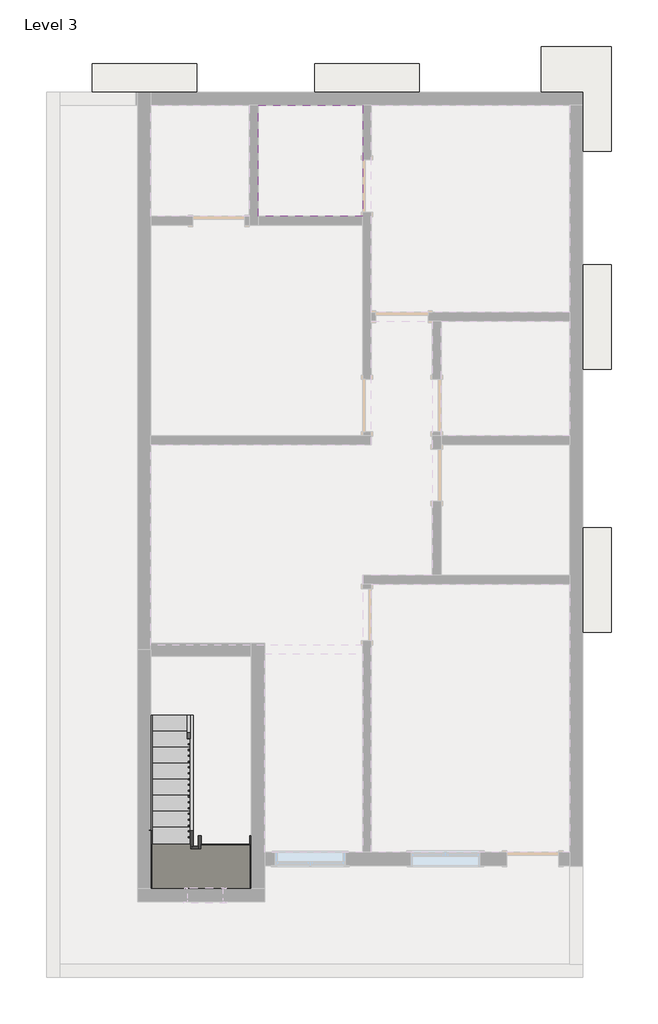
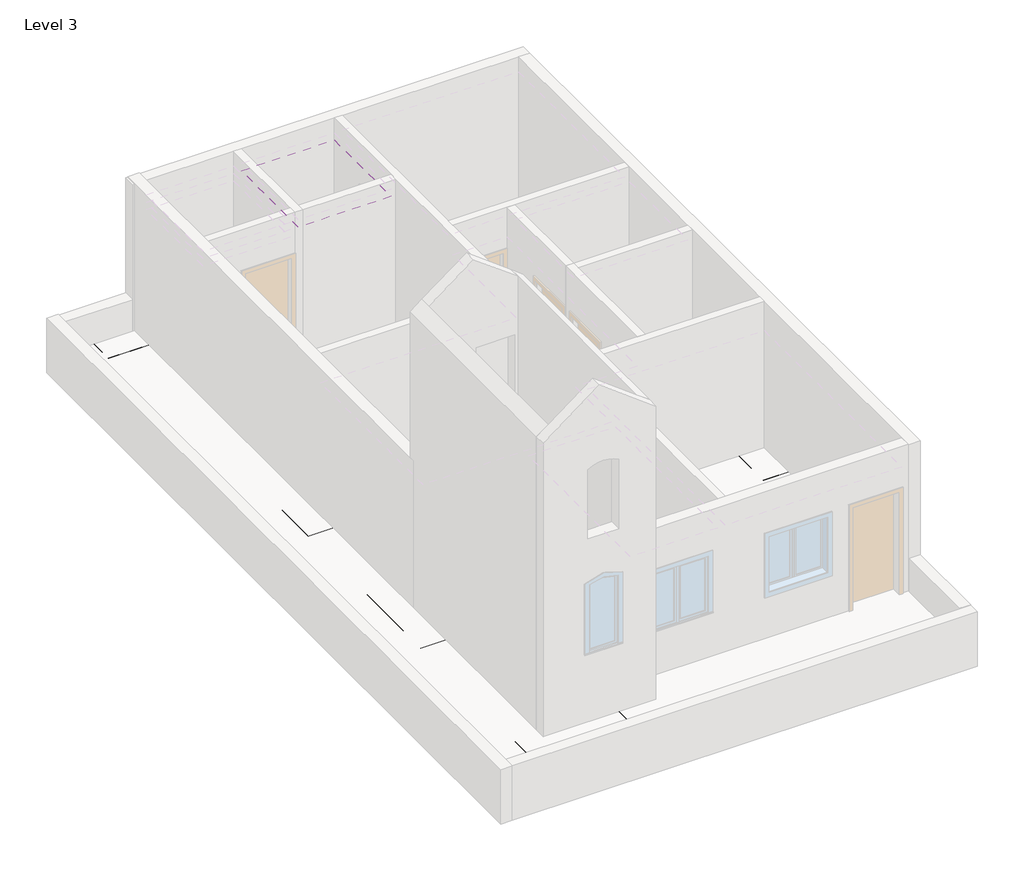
# One storey, part 2 of 2: 15 slabs, 8 members, 4 columns, 2 stair flights, 1 beam, 1 covering, 1 railing.
"""IFC4 building model written with IfcOpenShell, lengths in millimetres."""

from ifc_helpers import new_model, si_unit, frame, origin, origin_with_axes, place, context, project, spatial, polyline, outline, extrude, faceted_brep, transform, mapped, element, save
from components import footing_rectangular_1800_x1200_x_450_5ba74754, non_monolithic_landing_9032badd, stair_flight_d539902c, stair_flight_b4abb4c3

model = new_model("IFC4")

# Units and contexts
model_context = context("Model", 3, world=origin())
ifc_project = project(units=[si_unit("LENGTHUNIT", "METRE", prefix="MILLI")], contexts=[model_context])

# Site, building, storey
site = spatial("IfcSite", under=ifc_project)
building = spatial("IfcBuilding", under=site)
storey = spatial("IfcBuildingStorey", under=building, Name="Level 3", Elevation=0.0)

# Beam
placement = place(None, origin())
element("IfcBeam", 1, ObjectType="Concrete-Rectangular Beam : 203 x 304", at=placement, inside=storey, context=model_context, shape_type="SweptSolid", body=[
    extrude(outline(polyline([(-980.1915209, -6095.8926766), (-980.1915209, -6299.0926766), (-2758.1915209, -6299.0926766), (-2758.1915209, -6095.8926766), (-980.1915209, -6095.8926766)])), frame((0.0, 0.0, 722.8687095), z_axis=(0.0, 0.0, 1.0), x_axis=(1.0, 0.0, 0.0)), (0.0, 0.0, 1.0), 304.8),
])

# Columns
element("IfcColumn", 2, ObjectType="Concrete-Square-Column : 203 x 203", at=placement, inside=storey, context=model_context, shape_type="Brep", body=[
    faceted_brep([(-776.9915209, -1803.2926766, 0.0), (-776.9915209, -2006.4926766, 0.0), (-980.1915209, -2006.4926766, 0.0), (-980.1915209, -1803.2926766, 0.0), (-776.9915209, -2006.4926766, 2794.0), (-776.9915209, -1803.2926766, 2794.0), (-980.1915209, -1803.2926766, 2794.0), (-980.1915209, -2006.4926766, 2794.0), (-776.9915209, -1803.2926766, 2743.2), (-776.9915209, -2006.4926766, 2743.2), (-980.1915209, -2006.4926766, 2743.2), (-980.1915209, -1803.2926766, 2743.2)], [[[0, 1, 2, 3]], [[4, 5, 6, 7]], [[1, 0, 8, 5, 4, 9]], [[2, 1, 9, 4, 7, 10]], [[3, 2, 10, 7, 6, 11]], [[0, 3, 11, 6, 5, 8]]]),
    faceted_brep([(-776.9915209, -1803.2926766, 5791.2), (-776.9915209, -2006.4926766, 5791.2), (-776.9915209, -2006.4926766, 3048.0), (-776.9915209, -1803.2926766, 3048.0), (-980.1915209, -2006.4926766, 5791.2), (-980.1915209, -2006.4926766, 3048.0), (-980.1915209, -1803.2926766, 5791.2), (-980.1915209, -1803.2926766, 3048.0)], [[[0, 1, 2, 3]], [[1, 4, 5, 2]], [[4, 6, 7, 5]], [[6, 0, 3, 7]], [[1, 0, 6, 4]], [[3, 2, 5, 7]]]),
])
element("IfcColumn", 3, ObjectType="Concrete-Square-Column : 203 x 203", at=placement, inside=storey, context=model_context, shape_type="Brep", body=[
    faceted_brep([(-2758.1915209, -1803.2926766, 0.0), (-2758.1915209, -2006.4926766, 0.0), (-2961.3915209, -2006.4926766, 0.0), (-2961.3915209, -1803.2926766, 0.0), (-2758.1915209, -2006.4926766, 2794.0), (-2758.1915209, -1803.2926766, 2794.0), (-2961.3915209, -1803.2926766, 2794.0), (-2961.3915209, -2006.4926766, 2794.0), (-2758.1915209, -1803.2926766, 2743.2), (-2758.1915209, -2006.4926766, 2743.2), (-2961.3915209, -1803.2926766, 2743.2)], [[[0, 1, 2, 3]], [[4, 5, 6, 7]], [[1, 0, 8, 5, 4, 9]], [[2, 1, 9, 4, 7]], [[3, 2, 7, 6, 10]], [[0, 3, 10, 6, 5, 8]]]),
    faceted_brep([(-2758.1915209, -1803.2926766, 5791.2), (-2758.1915209, -2006.4926766, 5791.2), (-2758.1915209, -2006.4926766, 3048.0), (-2758.1915209, -1803.2926766, 3048.0), (-2961.3915209, -2006.4926766, 5791.2), (-2961.3915209, -2006.4926766, 3048.0), (-2961.3915209, -1803.2926766, 5791.2), (-2961.3915209, -1803.2926766, 3048.0)], [[[0, 1, 2, 3]], [[1, 4, 5, 2]], [[4, 6, 7, 5]], [[6, 0, 3, 7]], [[1, 0, 6, 4]], [[3, 2, 5, 7]]]),
])
element("IfcColumn", 4, ObjectType="Concrete-Square-Column : 203 x 203", at=placement, inside=storey, context=model_context, shape_type="SweptSolid", body=[
    extrude(outline(polyline([(-776.9915209, -6095.8926766), (-776.9915209, -6299.0926766), (-980.1915209, -6299.0926766), (-980.1915209, -6095.8926766), (-776.9915209, -6095.8926766)])), origin_with_axes(), (0.0, 0.0, 1.0), 5791.2),
])
element("IfcColumn", 5, ObjectType="Concrete-Square-Column : 203 x 203", at=placement, inside=storey, context=model_context, shape_type="SweptSolid", body=[
    extrude(outline(polyline([(-2758.1915209, -6095.8926766), (-2758.1915209, -6299.0926766), (-2961.3915209, -6299.0926766), (-2961.3915209, -6095.8926766), (-2758.1915209, -6095.8926766)])), origin_with_axes(), (0.0, 0.0, 1.0), 5791.2),
])

# Covering
element("IfcCovering", 6, ObjectType="GWB on Mtl. Stud", at=placement, inside=storey, context=model_context, shape_type="SweptSolid", body=[
    extrude(outline(polyline([(-877.0040209, 5665.8948234), (-877.0040209, 7607.4073234), (948.6209791, 7607.4073234), (948.6209791, 5665.8948234), (-877.0040209, 5665.8948234)])), frame((0.0, 0.0, 2590.8), z_axis=(0.0, 0.0, 1.0), x_axis=(1.0, 0.0, 0.0)), (0.0, 0.0, 1.0), 107.95),
])

# Members
element("IfcMember", 7, ObjectType="Stringer - 2\" Width", at=placement, inside=storey, context=model_context, shape_type="SweptSolid", body=[
    extrude(outline(polyline([(-3047.8926766, 202.7933564), (-3047.8926766, 0.0), (-3325.0270456, 0.0), (-5378.6170456, 1018.3090909), (-5307.1960746, 1323.1090909), (-3047.8926766, 202.7933564)])), frame((-2064.400324, 0.0, 0.0), z_axis=(1.0, 0.0, 0.0), x_axis=(0.0, 1.0, 0.0)), (0.0, 0.0, 1.0), 50.8),
])
element("IfcMember", 8, ObjectType="Stringer - 2\" Width", at=placement, inside=storey, context=model_context, shape_type="SweptSolid", body=[
    extrude(outline(polyline([(-3047.8926766, 202.7933564), (-3047.8926766, 0.0), (-3325.0270456, 0.0), (-5378.6170456, 1018.3090909), (-5307.1960746, 1323.1090909), (-3047.8926766, 202.7933564)])), frame((-2776.4477709, 0.0, 0.0), z_axis=(1.0, 0.0, 0.0), x_axis=(0.0, 1.0, 0.0)), (0.0, 0.0, 1.0), 50.8),
])
element("IfcMember", 9, ObjectType="Stringer - 2\" Width", at=placement, inside=storey, context=model_context, shape_type="SweptSolid", body=[
    extrude(outline(polyline([(-5391.5562734, 1081.7672372), (-5391.5562734, 1421.9825947), (-1982.8545706, 3112.2479018), (-1982.8545706, 2772.0325443), (-5391.5562734, 1081.7672372)])), frame((-1922.3459224, 0.0, 0.0), z_axis=(1.0, 0.0, 0.0), x_axis=(0.0, 1.0, 0.0)), (0.0, 0.0, 1.0), 50.8),
])
element("IfcMember", 10, ObjectType="Stringer - 2\" Width", at=placement, inside=storey, context=model_context, shape_type="SweptSolid", body=[
    extrude(outline(polyline([(-5519.5302017, 1018.3090909), (-5590.9511727, 1323.1090909), (-1982.8545706, 3112.2479018), (-1982.8545706, 2772.0325443), (-5519.5302017, 1018.3090909)])), frame((-1025.7909807, 0.0, 0.0), z_axis=(1.0, 0.0, 0.0), x_axis=(0.0, 1.0, 0.0)), (0.0, 0.0, 1.0), 50.8),
])
element("IfcMember", 11, ObjectType="Stringer - 2\" Width", at=placement, inside=storey, context=model_context, shape_type="SweptSolid", body=[
    extrude(outline(polyline([(-1922.3459224, -5340.7562734), (-1922.3459224, -5391.5562734), (-2064.400324, -5391.5562734), (-2013.600324, -5340.7562734), (-1922.3459224, -5340.7562734)])), frame((0.0, 0.0, 1018.3090909), z_axis=(0.0, 0.0, 1.0), x_axis=(1.0, 0.0, 0.0)), (0.0, 0.0, 1.0), 304.8),
])
element("IfcMember", 12, ObjectType="Stringer - 2\" Width", at=placement, inside=storey, context=model_context, shape_type="Brep", body=[
    faceted_brep([(-2725.6477709, -5307.1960746, 1323.1090909), (-2776.4477709, -5307.1960746, 1323.1090909), (-2776.4477709, -6248.2926766, 1323.1090909), (-2725.6477709, -6197.4926766, 1323.1090909), (-2725.6477709, -5378.6170456, 1018.3090909), (-2725.6477709, -6197.4926766, 1018.3090909), (-2776.4477709, -5378.6170456, 1018.3090909), (-2776.4477709, -6248.2926766, 1018.3090909)], [[[0, 1, 2, 3]], [[4, 0, 3, 5]], [[6, 4, 5, 7]], [[1, 6, 7, 2]], [[1, 0, 4, 6]], [[2, 7, 5, 3]]]),
])
element("IfcMember", 13, ObjectType="Stringer - 2\" Width", at=placement, inside=storey, context=model_context, shape_type="SweptSolid", body=[
    extrude(outline(polyline([(-2776.4477709, -6248.2926766), (-2725.6477709, -6197.4926766), (-1025.7909807, -6197.4926766), (-974.9909807, -6248.2926766), (-2776.4477709, -6248.2926766)])), frame((0.0, 0.0, 1018.3090909), z_axis=(0.0, 0.0, 1.0), x_axis=(1.0, 0.0, 0.0)), (0.0, 0.0, 1.0), 304.8),
])
element("IfcMember", 14, ObjectType="Stringer - 2\" Width", at=placement, inside=storey, context=model_context, shape_type="Brep", body=[
    faceted_brep([(-1025.7909807, -6197.4926766, 1323.1090909), (-974.9909807, -6248.2926766, 1323.1090909), (-974.9909807, -5590.9511727, 1323.1090909), (-1025.7909807, -5590.9511727, 1323.1090909), (-1025.7909807, -6197.4926766, 1018.3090909), (-1025.7909807, -5519.5302017, 1018.3090909), (-974.9909807, -6248.2926766, 1018.3090909), (-974.9909807, -5519.5302017, 1018.3090909)], [[[0, 1, 2, 3]], [[4, 0, 3, 5]], [[6, 4, 5, 7]], [[1, 6, 7, 2]], [[1, 0, 4, 6]], [[2, 7, 5, 3]]]),
])

# Railing
element("IfcRailing", 15, ObjectType="Handrail - Rectangular", at=placement, inside=storey, context=model_context, shape_type="SolidModel", body=[
    faceted_brep([(-2064.400324, -3047.8926766, 1052.9454545), (-2064.400324, -3047.8926766, 996.242895), (-2115.200324, -3047.8926766, 996.242895), (-2115.200324, -3047.8926766, 1052.9454545), (-2064.400324, -5283.0926766, 2161.3090909), (-2064.400324, -5294.9961718, 2110.5090909), (-2115.200324, -5294.9961718, 2110.5090909), (-2115.200324, -5283.0926766, 2161.3090909), (-2064.400324, -5391.5562734, 2161.3090909), (-2064.400324, -5391.5562734, 2110.5090909), (-2115.200324, -5442.3562734, 2110.5090909), (-2115.200324, -5442.3562734, 2161.3090909), (-1947.7459224, -5391.5562734, 2161.3090909), (-1896.9459224, -5391.5562734, 2110.5090909), (-1896.9459224, -5442.3562734, 2110.5090909), (-1947.7459224, -5442.3562734, 2161.3090909), (-1947.7459224, -5391.5562734, 2309.9198168), (-1896.9459224, -5391.5562734, 2259.1198168), (-1896.9459224, -5442.3562734, 2259.1198168), (-1947.7459224, -5442.3562734, 2309.9198168), (-1871.5459224, -5391.5562734, 2309.9198168), (-1871.5459224, -5391.5562734, 2259.1198168), (-1820.7459224, -5442.3562734, 2259.1198168), (-1820.7459224, -5442.3562734, 2309.9198168), (-1871.5459224, -5315.3562734, 2309.9198168), (-1871.5459224, -5303.4527782, 2259.1198168), (-1820.7459224, -5303.4527782, 2259.1198168), (-1820.7459224, -5315.3562734, 2309.9198168), (-1871.5459224, -1982.8545706, 3962.4), (-1820.7459224, -1982.8545706, 3962.4), (-1820.7459224, -1982.8545706, 3905.6974404), (-1871.5459224, -1982.8545706, 3905.6974404)], [[[0, 1, 2, 3]], [[1, 0, 4, 5]], [[2, 1, 5, 6]], [[3, 2, 6, 7]], [[0, 3, 7, 4]], [[5, 4, 8, 9]], [[6, 5, 9, 10]], [[7, 6, 10, 11]], [[4, 7, 11, 8]], [[9, 8, 12, 13]], [[10, 9, 13, 14]], [[11, 10, 14, 15]], [[8, 11, 15, 12]], [[13, 12, 16, 17]], [[14, 13, 17, 18]], [[15, 14, 18, 19]], [[12, 15, 19, 16]], [[17, 16, 20, 21]], [[18, 17, 21, 22]], [[19, 18, 22, 23]], [[16, 19, 23, 20]], [[21, 20, 24, 25]], [[22, 21, 25, 26]], [[23, 22, 26, 27]], [[20, 23, 27, 24]], [[28, 29, 30, 31]], [[25, 24, 28, 31]], [[26, 25, 31, 30]], [[27, 26, 30, 29]], [[24, 27, 29, 28]]]),
    extrude(outline(polyline([(-2054.6312734, 3870.105687), (-2054.6312734, 2909.4545455), (-2073.6812734, 2909.4545455), (-2073.6812734, 3860.659406), (-2054.6312734, 3870.105687)])), frame((-1855.6709224, 0.0, 0.0), z_axis=(1.0, 0.0, 0.0), x_axis=(0.0, 1.0, 0.0)), (0.0, 0.0, 1.0), 19.05),
    extrude(outline(polyline([(-2156.2312734, 3819.7255217), (-2156.2312734, 2909.4545455), (-2175.2812734, 2909.4545455), (-2175.2812734, 3810.2792407), (-2156.2312734, 3819.7255217)])), frame((-1855.6709224, 0.0, 0.0), z_axis=(1.0, 0.0, 0.0), x_axis=(0.0, 1.0, 0.0)), (0.0, 0.0, 1.0), 19.05),
    extrude(outline(polyline([(-2257.8312734, 3769.3453564), (-2257.8312734, 2770.9090909), (-2276.8812734, 2770.9090909), (-2276.8812734, 3759.8990754), (-2257.8312734, 3769.3453564)])), frame((-1855.6709224, 0.0, 0.0), z_axis=(1.0, 0.0, 0.0), x_axis=(0.0, 1.0, 0.0)), (0.0, 0.0, 1.0), 19.05),
    extrude(outline(polyline([(-2359.4312734, 3718.9651911), (-2359.4312734, 2770.9090909), (-2378.4812734, 2770.9090909), (-2378.4812734, 3709.5189101), (-2359.4312734, 3718.9651911)])), frame((-1855.6709224, 0.0, 0.0), z_axis=(1.0, 0.0, 0.0), x_axis=(0.0, 1.0, 0.0)), (0.0, 0.0, 1.0), 19.05),
    extrude(outline(polyline([(-2461.0312734, 3668.5850258), (-2461.0312734, 2770.9090909), (-2480.0812734, 2770.9090909), (-2480.0812734, 3659.1387449), (-2461.0312734, 3668.5850258)])), frame((-1855.6709224, 0.0, 0.0), z_axis=(1.0, 0.0, 0.0), x_axis=(0.0, 1.0, 0.0)), (0.0, 0.0, 1.0), 19.05),
    extrude(outline(polyline([(-2562.6312734, 3618.2048606), (-2562.6312734, 2632.3636364), (-2581.6812734, 2632.3636364), (-2581.6812734, 3608.7585796), (-2562.6312734, 3618.2048606)])), frame((-1855.6709224, 0.0, 0.0), z_axis=(1.0, 0.0, 0.0), x_axis=(0.0, 1.0, 0.0)), (0.0, 0.0, 1.0), 19.05),
    extrude(outline(polyline([(-2664.2312734, 3567.8246953), (-2664.2312734, 2632.3636364), (-2683.2812734, 2632.3636364), (-2683.2812734, 3558.3784143), (-2664.2312734, 3567.8246953)])), frame((-1855.6709224, 0.0, 0.0), z_axis=(1.0, 0.0, 0.0), x_axis=(0.0, 1.0, 0.0)), (0.0, 0.0, 1.0), 19.05),
    extrude(outline(polyline([(-2765.8312734, 3517.44453), (-2765.8312734, 2632.3636364), (-2784.8812734, 2632.3636364), (-2784.8812734, 3507.998249), (-2765.8312734, 3517.44453)])), frame((-1855.6709224, 0.0, 0.0), z_axis=(1.0, 0.0, 0.0), x_axis=(0.0, 1.0, 0.0)), (0.0, 0.0, 1.0), 19.05),
    extrude(outline(polyline([(-2867.4312734, 3467.0643647), (-2867.4312734, 2493.8181818), (-2886.4812734, 2493.8181818), (-2886.4812734, 3457.6180837), (-2867.4312734, 3467.0643647)])), frame((-1855.6709224, 0.0, 0.0), z_axis=(1.0, 0.0, 0.0), x_axis=(0.0, 1.0, 0.0)), (0.0, 0.0, 1.0), 19.05),
    extrude(outline(polyline([(-2969.0312734, 3416.6841994), (-2969.0312734, 2493.8181818), (-2988.0812734, 2493.8181818), (-2988.0812734, 3407.2379184), (-2969.0312734, 3416.6841994)])), frame((-1855.6709224, 0.0, 0.0), z_axis=(1.0, 0.0, 0.0), x_axis=(0.0, 1.0, 0.0)), (0.0, 0.0, 1.0), 19.05),
    extrude(outline(polyline([(-3070.6312734, 3366.3040341), (-3070.6312734, 2493.8181818), (-3089.6812734, 2493.8181818), (-3089.6812734, 3356.8577531), (-3070.6312734, 3366.3040341)])), frame((-1855.6709224, 0.0, 0.0), z_axis=(1.0, 0.0, 0.0), x_axis=(0.0, 1.0, 0.0)), (0.0, 0.0, 1.0), 19.05),
    extrude(outline(polyline([(-3172.2312734, 3315.9238688), (-3172.2312734, 2355.2727273), (-3191.2812734, 2355.2727273), (-3191.2812734, 3306.4775878), (-3172.2312734, 3315.9238688)])), frame((-1855.6709224, 0.0, 0.0), z_axis=(1.0, 0.0, 0.0), x_axis=(0.0, 1.0, 0.0)), (0.0, 0.0, 1.0), 19.05),
    extrude(outline(polyline([(-3273.8312734, 3265.5437035), (-3273.8312734, 2355.2727273), (-3292.8812734, 2355.2727273), (-3292.8812734, 3256.0974225), (-3273.8312734, 3265.5437035)])), frame((-1855.6709224, 0.0, 0.0), z_axis=(1.0, 0.0, 0.0), x_axis=(0.0, 1.0, 0.0)), (0.0, 0.0, 1.0), 19.05),
    extrude(outline(polyline([(-3375.4312734, 3215.1635382), (-3375.4312734, 2216.7272727), (-3394.4812734, 2216.7272727), (-3394.4812734, 3205.7172573), (-3375.4312734, 3215.1635382)])), frame((-1855.6709224, 0.0, 0.0), z_axis=(1.0, 0.0, 0.0), x_axis=(0.0, 1.0, 0.0)), (0.0, 0.0, 1.0), 19.05),
    extrude(outline(polyline([(-3477.0312734, 3164.783373), (-3477.0312734, 2216.7272727), (-3496.0812734, 2216.7272727), (-3496.0812734, 3155.337092), (-3477.0312734, 3164.783373)])), frame((-1855.6709224, 0.0, 0.0), z_axis=(1.0, 0.0, 0.0), x_axis=(0.0, 1.0, 0.0)), (0.0, 0.0, 1.0), 19.05),
    extrude(outline(polyline([(-3578.6312734, 3114.4032077), (-3578.6312734, 2216.7272727), (-3597.6812734, 2216.7272727), (-3597.6812734, 3104.9569267), (-3578.6312734, 3114.4032077)])), frame((-1855.6709224, 0.0, 0.0), z_axis=(1.0, 0.0, 0.0), x_axis=(0.0, 1.0, 0.0)), (0.0, 0.0, 1.0), 19.05),
    extrude(outline(polyline([(-3680.2312734, 3064.0230424), (-3680.2312734, 2078.1818182), (-3699.2812734, 2078.1818182), (-3699.2812734, 3054.5767614), (-3680.2312734, 3064.0230424)])), frame((-1855.6709224, 0.0, 0.0), z_axis=(1.0, 0.0, 0.0), x_axis=(0.0, 1.0, 0.0)), (0.0, 0.0, 1.0), 19.05),
    extrude(outline(polyline([(-3781.8312734, 3013.6428771), (-3781.8312734, 2078.1818182), (-3800.8812734, 2078.1818182), (-3800.8812734, 3004.1965961), (-3781.8312734, 3013.6428771)])), frame((-1855.6709224, 0.0, 0.0), z_axis=(1.0, 0.0, 0.0), x_axis=(0.0, 1.0, 0.0)), (0.0, 0.0, 1.0), 19.05),
    extrude(outline(polyline([(-3883.4312734, 2963.2627118), (-3883.4312734, 2078.1818182), (-3902.4812734, 2078.1818182), (-3902.4812734, 2953.8164308), (-3883.4312734, 2963.2627118)])), frame((-1855.6709224, 0.0, 0.0), z_axis=(1.0, 0.0, 0.0), x_axis=(0.0, 1.0, 0.0)), (0.0, 0.0, 1.0), 19.05),
    extrude(outline(polyline([(-3985.0312734, 2912.8825465), (-3985.0312734, 1939.6363636), (-4004.0812734, 1939.6363636), (-4004.0812734, 2903.4362655), (-3985.0312734, 2912.8825465)])), frame((-1855.6709224, 0.0, 0.0), z_axis=(1.0, 0.0, 0.0), x_axis=(0.0, 1.0, 0.0)), (0.0, 0.0, 1.0), 19.05),
    extrude(outline(polyline([(-4086.6312734, 2862.5023812), (-4086.6312734, 1939.6363636), (-4105.6812734, 1939.6363636), (-4105.6812734, 2853.0561002), (-4086.6312734, 2862.5023812)])), frame((-1855.6709224, 0.0, 0.0), z_axis=(1.0, 0.0, 0.0), x_axis=(0.0, 1.0, 0.0)), (0.0, 0.0, 1.0), 19.05),
    extrude(outline(polyline([(-4188.2312734, 2812.1222159), (-4188.2312734, 1939.6363636), (-4207.2812734, 1939.6363636), (-4207.2812734, 2802.6759349), (-4188.2312734, 2812.1222159)])), frame((-1855.6709224, 0.0, 0.0), z_axis=(1.0, 0.0, 0.0), x_axis=(0.0, 1.0, 0.0)), (0.0, 0.0, 1.0), 19.05),
    extrude(outline(polyline([(-4289.8312734, 2761.7420506), (-4289.8312734, 1801.0909091), (-4308.8812734, 1801.0909091), (-4308.8812734, 2752.2957697), (-4289.8312734, 2761.7420506)])), frame((-1855.6709224, 0.0, 0.0), z_axis=(1.0, 0.0, 0.0), x_axis=(0.0, 1.0, 0.0)), (0.0, 0.0, 1.0), 19.05),
    extrude(outline(polyline([(-4391.4312734, 2711.3618854), (-4391.4312734, 1801.0909091), (-4410.4812734, 1801.0909091), (-4410.4812734, 2701.9156044), (-4391.4312734, 2711.3618854)])), frame((-1855.6709224, 0.0, 0.0), z_axis=(1.0, 0.0, 0.0), x_axis=(0.0, 1.0, 0.0)), (0.0, 0.0, 1.0), 19.05),
    extrude(outline(polyline([(-4493.0312734, 2660.9817201), (-4493.0312734, 1662.5454545), (-4512.0812734, 1662.5454545), (-4512.0812734, 2651.5354391), (-4493.0312734, 2660.9817201)])), frame((-1855.6709224, 0.0, 0.0), z_axis=(1.0, 0.0, 0.0), x_axis=(0.0, 1.0, 0.0)), (0.0, 0.0, 1.0), 19.05),
    extrude(outline(polyline([(-4594.6312734, 2610.6015548), (-4594.6312734, 1662.5454545), (-4613.6812734, 1662.5454545), (-4613.6812734, 2601.1552738), (-4594.6312734, 2610.6015548)])), frame((-1855.6709224, 0.0, 0.0), z_axis=(1.0, 0.0, 0.0), x_axis=(0.0, 1.0, 0.0)), (0.0, 0.0, 1.0), 19.05),
    extrude(outline(polyline([(-4696.2312734, 2560.2213895), (-4696.2312734, 1662.5454545), (-4715.2812734, 1662.5454545), (-4715.2812734, 2550.7751085), (-4696.2312734, 2560.2213895)])), frame((-1855.6709224, 0.0, 0.0), z_axis=(1.0, 0.0, 0.0), x_axis=(0.0, 1.0, 0.0)), (0.0, 0.0, 1.0), 19.05),
    extrude(outline(polyline([(-4797.8312734, 2509.8412242), (-4797.8312734, 1524.0), (-4816.8812734, 1524.0), (-4816.8812734, 2500.3949432), (-4797.8312734, 2509.8412242)])), frame((-1855.6709224, 0.0, 0.0), z_axis=(1.0, 0.0, 0.0), x_axis=(0.0, 1.0, 0.0)), (0.0, 0.0, 1.0), 19.05),
    extrude(outline(polyline([(-4899.4312734, 2459.4610589), (-4899.4312734, 1524.0), (-4918.4812734, 1524.0), (-4918.4812734, 2450.0147779), (-4899.4312734, 2459.4610589)])), frame((-1855.6709224, 0.0, 0.0), z_axis=(1.0, 0.0, 0.0), x_axis=(0.0, 1.0, 0.0)), (0.0, 0.0, 1.0), 19.05),
    extrude(outline(polyline([(-5001.0312734, 2409.0808936), (-5001.0312734, 1524.0), (-5020.0812734, 1524.0), (-5020.0812734, 2399.6346126), (-5001.0312734, 2409.0808936)])), frame((-1855.6709224, 0.0, 0.0), z_axis=(1.0, 0.0, 0.0), x_axis=(0.0, 1.0, 0.0)), (0.0, 0.0, 1.0), 19.05),
    extrude(outline(polyline([(-5102.6312734, 2358.7007283), (-5102.6312734, 1385.4545455), (-5121.6812734, 1385.4545455), (-5121.6812734, 2349.2544473), (-5102.6312734, 2358.7007283)])), frame((-1855.6709224, 0.0, 0.0), z_axis=(1.0, 0.0, 0.0), x_axis=(0.0, 1.0, 0.0)), (0.0, 0.0, 1.0), 19.05),
    extrude(outline(polyline([(-5204.2312734, 2308.320563), (-5204.2312734, 1385.4545455), (-5223.2812734, 1385.4545455), (-5223.2812734, 2298.874282), (-5204.2312734, 2308.320563)])), frame((-1855.6709224, 0.0, 0.0), z_axis=(1.0, 0.0, 0.0), x_axis=(0.0, 1.0, 0.0)), (0.0, 0.0, 1.0), 19.05),
    extrude(outline(polyline([(-1855.6709224, -5324.8812734), (-1855.6709224, -5305.8312734), (-1836.6209224, -5305.8312734), (-1836.6209224, -5324.8812734), (-1855.6709224, -5324.8812734)])), frame((0.0, 0.0, 1385.4545455), z_axis=(0.0, 0.0, 1.0), x_axis=(1.0, 0.0, 0.0)), (0.0, 0.0, 1.0), 873.6652714),
    extrude(outline(polyline([(-1896.125324, -5407.4312734), (-1877.075324, -5407.4312734), (-1877.075324, -5426.4812734), (-1896.125324, -5426.4812734), (-1896.125324, -5407.4312734)])), frame((0.0, 0.0, 1246.9090909), z_axis=(0.0, 0.0, 1.0), x_axis=(1.0, 0.0, 0.0)), (0.0, 0.0, 1.0), 863.6),
    extrude(outline(polyline([(-1997.725324, -5407.4312734), (-1978.675324, -5407.4312734), (-1978.675324, -5426.4812734), (-1997.725324, -5426.4812734), (-1997.725324, -5407.4312734)])), frame((0.0, 0.0, 1246.9090909), z_axis=(0.0, 0.0, 1.0), x_axis=(1.0, 0.0, 0.0)), (0.0, 0.0, 1.0), 863.6),
    extrude(outline(polyline([(-2080.275324, -5375.1676766), (-2080.275324, -5394.2176766), (-2099.325324, -5394.2176766), (-2099.325324, -5375.1676766), (-2080.275324, -5375.1676766)])), frame((0.0, 0.0, 1246.9090909), z_axis=(0.0, 0.0, 1.0), x_axis=(1.0, 0.0, 0.0)), (0.0, 0.0, 1.0), 863.6),
    extrude(outline(polyline([(-5171.9676766, 2049.5032255), (-5171.9676766, 1108.3636364), (-5191.0176766, 1108.3636364), (-5191.0176766, 2058.9495065), (-5171.9676766, 2049.5032255)])), frame((-2099.325324, 0.0, 0.0), z_axis=(1.0, 0.0, 0.0), x_axis=(0.0, 1.0, 0.0)), (0.0, 0.0, 1.0), 19.05),
    extrude(outline(polyline([(-5070.3676766, 1999.1230602), (-5070.3676766, 1108.3636364), (-5089.4176766, 1108.3636364), (-5089.4176766, 2008.5693412), (-5070.3676766, 1999.1230602)])), frame((-2099.325324, 0.0, 0.0), z_axis=(1.0, 0.0, 0.0), x_axis=(0.0, 1.0, 0.0)), (0.0, 0.0, 1.0), 19.05),
    extrude(outline(polyline([(-4968.7676766, 1948.742895), (-4968.7676766, 969.8181818), (-4987.8176766, 969.8181818), (-4987.8176766, 1958.189176), (-4968.7676766, 1948.742895)])), frame((-2099.325324, 0.0, 0.0), z_axis=(1.0, 0.0, 0.0), x_axis=(0.0, 1.0, 0.0)), (0.0, 0.0, 1.0), 19.05),
    extrude(outline(polyline([(-4867.1676766, 1898.3627297), (-4867.1676766, 969.8181818), (-4886.2176766, 969.8181818), (-4886.2176766, 1907.8090107), (-4867.1676766, 1898.3627297)])), frame((-2099.325324, 0.0, 0.0), z_axis=(1.0, 0.0, 0.0), x_axis=(0.0, 1.0, 0.0)), (0.0, 0.0, 1.0), 19.05),
    extrude(outline(polyline([(-4765.5676766, 1847.9825644), (-4765.5676766, 969.8181818), (-4784.6176766, 969.8181818), (-4784.6176766, 1857.4288454), (-4765.5676766, 1847.9825644)])), frame((-2099.325324, 0.0, 0.0), z_axis=(1.0, 0.0, 0.0), x_axis=(0.0, 1.0, 0.0)), (0.0, 0.0, 1.0), 19.05),
    extrude(outline(polyline([(-4663.9676766, 1797.6023991), (-4663.9676766, 831.2727273), (-4683.0176766, 831.2727273), (-4683.0176766, 1807.0486801), (-4663.9676766, 1797.6023991)])), frame((-2099.325324, 0.0, 0.0), z_axis=(1.0, 0.0, 0.0), x_axis=(0.0, 1.0, 0.0)), (0.0, 0.0, 1.0), 19.05),
    extrude(outline(polyline([(-4562.3676766, 1747.2222338), (-4562.3676766, 831.2727273), (-4581.4176766, 831.2727273), (-4581.4176766, 1756.6685148), (-4562.3676766, 1747.2222338)])), frame((-2099.325324, 0.0, 0.0), z_axis=(1.0, 0.0, 0.0), x_axis=(0.0, 1.0, 0.0)), (0.0, 0.0, 1.0), 19.05),
    extrude(outline(polyline([(-4460.7676766, 1696.8420685), (-4460.7676766, 831.2727273), (-4479.8176766, 831.2727273), (-4479.8176766, 1706.2883495), (-4460.7676766, 1696.8420685)])), frame((-2099.325324, 0.0, 0.0), z_axis=(1.0, 0.0, 0.0), x_axis=(0.0, 1.0, 0.0)), (0.0, 0.0, 1.0), 19.05),
    extrude(outline(polyline([(-4359.1676766, 1646.4619032), (-4359.1676766, 692.7272727), (-4378.2176766, 692.7272727), (-4378.2176766, 1655.9081842), (-4359.1676766, 1646.4619032)])), frame((-2099.325324, 0.0, 0.0), z_axis=(1.0, 0.0, 0.0), x_axis=(0.0, 1.0, 0.0)), (0.0, 0.0, 1.0), 19.05),
    extrude(outline(polyline([(-4257.5676766, 1596.0817379), (-4257.5676766, 692.7272727), (-4276.6176766, 692.7272727), (-4276.6176766, 1605.5280189), (-4257.5676766, 1596.0817379)])), frame((-2099.325324, 0.0, 0.0), z_axis=(1.0, 0.0, 0.0), x_axis=(0.0, 1.0, 0.0)), (0.0, 0.0, 1.0), 19.05),
    extrude(outline(polyline([(-4155.9676766, 1545.7015726), (-4155.9676766, 692.7272727), (-4175.0176766, 692.7272727), (-4175.0176766, 1555.1478536), (-4155.9676766, 1545.7015726)])), frame((-2099.325324, 0.0, 0.0), z_axis=(1.0, 0.0, 0.0), x_axis=(0.0, 1.0, 0.0)), (0.0, 0.0, 1.0), 19.05),
    extrude(outline(polyline([(-4054.3676766, 1495.3214074), (-4054.3676766, 554.1818182), (-4073.4176766, 554.1818182), (-4073.4176766, 1504.7676883), (-4054.3676766, 1495.3214074)])), frame((-2099.325324, 0.0, 0.0), z_axis=(1.0, 0.0, 0.0), x_axis=(0.0, 1.0, 0.0)), (0.0, 0.0, 1.0), 19.05),
    extrude(outline(polyline([(-3952.7676766, 1444.9412421), (-3952.7676766, 554.1818182), (-3971.8176766, 554.1818182), (-3971.8176766, 1454.3875231), (-3952.7676766, 1444.9412421)])), frame((-2099.325324, 0.0, 0.0), z_axis=(1.0, 0.0, 0.0), x_axis=(0.0, 1.0, 0.0)), (0.0, 0.0, 1.0), 19.05),
    extrude(outline(polyline([(-3851.1676766, 1394.5610768), (-3851.1676766, 415.6363636), (-3870.2176766, 415.6363636), (-3870.2176766, 1404.0073578), (-3851.1676766, 1394.5610768)])), frame((-2099.325324, 0.0, 0.0), z_axis=(1.0, 0.0, 0.0), x_axis=(0.0, 1.0, 0.0)), (0.0, 0.0, 1.0), 19.05),
    extrude(outline(polyline([(-3749.5676766, 1344.1809115), (-3749.5676766, 415.6363636), (-3768.6176766, 415.6363636), (-3768.6176766, 1353.6271925), (-3749.5676766, 1344.1809115)])), frame((-2099.325324, 0.0, 0.0), z_axis=(1.0, 0.0, 0.0), x_axis=(0.0, 1.0, 0.0)), (0.0, 0.0, 1.0), 19.05),
    extrude(outline(polyline([(-3647.9676766, 1293.8007462), (-3647.9676766, 415.6363636), (-3667.0176766, 415.6363636), (-3667.0176766, 1303.2470272), (-3647.9676766, 1293.8007462)])), frame((-2099.325324, 0.0, 0.0), z_axis=(1.0, 0.0, 0.0), x_axis=(0.0, 1.0, 0.0)), (0.0, 0.0, 1.0), 19.05),
    extrude(outline(polyline([(-3546.3676766, 1243.4205809), (-3546.3676766, 277.0909091), (-3565.4176766, 277.0909091), (-3565.4176766, 1252.8668619), (-3546.3676766, 1243.4205809)])), frame((-2099.325324, 0.0, 0.0), z_axis=(1.0, 0.0, 0.0), x_axis=(0.0, 1.0, 0.0)), (0.0, 0.0, 1.0), 19.05),
    extrude(outline(polyline([(-3444.7676766, 1193.0404156), (-3444.7676766, 277.0909091), (-3463.8176766, 277.0909091), (-3463.8176766, 1202.4866966), (-3444.7676766, 1193.0404156)])), frame((-2099.325324, 0.0, 0.0), z_axis=(1.0, 0.0, 0.0), x_axis=(0.0, 1.0, 0.0)), (0.0, 0.0, 1.0), 19.05),
    extrude(outline(polyline([(-3343.1676766, 1142.6602503), (-3343.1676766, 277.0909091), (-3362.2176766, 277.0909091), (-3362.2176766, 1152.1065313), (-3343.1676766, 1142.6602503)])), frame((-2099.325324, 0.0, 0.0), z_axis=(1.0, 0.0, 0.0), x_axis=(0.0, 1.0, 0.0)), (0.0, 0.0, 1.0), 19.05),
    extrude(outline(polyline([(-3241.5676766, 1092.280085), (-3241.5676766, 138.5454545), (-3260.6176766, 138.5454545), (-3260.6176766, 1101.726366), (-3241.5676766, 1092.280085)])), frame((-2099.325324, 0.0, 0.0), z_axis=(1.0, 0.0, 0.0), x_axis=(0.0, 1.0, 0.0)), (0.0, 0.0, 1.0), 19.05),
    extrude(outline(polyline([(-3139.9676766, 1041.8999198), (-3139.9676766, 138.5454545), (-3159.0176766, 138.5454545), (-3159.0176766, 1051.3462007), (-3139.9676766, 1041.8999198)])), frame((-2099.325324, 0.0, 0.0), z_axis=(1.0, 0.0, 0.0), x_axis=(0.0, 1.0, 0.0)), (0.0, 0.0, 1.0), 19.05),
    extrude(outline(polyline([(-1855.6709224, -5426.4812734), (-1855.6709224, -5407.4312734), (-1836.6209224, -5407.4312734), (-1836.6209224, -5426.4812734), (-1855.6709224, -5426.4812734)])), frame((0.0, 0.0, 1246.9090909), z_axis=(0.0, 0.0, 1.0), x_axis=(1.0, 0.0, 0.0)), (0.0, 0.0, 1.0), 1012.2107259),
    extrude(outline(polyline([(-2080.275324, -5407.4312734), (-2080.275324, -5426.4812734), (-2099.325324, -5426.4812734), (-2099.325324, -5407.4312734), (-2080.275324, -5407.4312734)])), frame((0.0, 0.0, 1246.9090909), z_axis=(0.0, 0.0, 1.0), x_axis=(1.0, 0.0, 0.0)), (0.0, 0.0, 1.0), 863.6),
    extrude(outline(polyline([(-5273.5676766, 2099.8833908), (-5273.5676766, 1246.9090909), (-5292.6176766, 1246.9090909), (-5292.6176766, 2109.3296718), (-5273.5676766, 2099.8833908)])), frame((-2099.325324, 0.0, 0.0), z_axis=(1.0, 0.0, 0.0), x_axis=(0.0, 1.0, 0.0)), (0.0, 0.0, 1.0), 19.05),
    extrude(outline(polyline([(-1982.8545706, 3905.6974404), (-1982.8545706, 2909.4545455), (-2001.9045706, 2909.4545455), (-2001.9045706, 3896.2511594), (-1982.8545706, 3905.6974404)])), frame((-1855.6709224, 0.0, 0.0), z_axis=(1.0, 0.0, 0.0), x_axis=(0.0, 1.0, 0.0)), (0.0, 0.0, 1.0), 19.05),
    extrude(outline(polyline([(-3047.8926766, 996.242895), (-3047.8926766, 138.5454545), (-3066.9426766, 138.5454545), (-3066.9426766, 1005.689176), (-3047.8926766, 996.242895)])), frame((-2099.325324, 0.0, 0.0), z_axis=(1.0, 0.0, 0.0), x_axis=(0.0, 1.0, 0.0)), (0.0, 0.0, 1.0), 19.05),
])

# Slabs
element("IfcSlab", 16, ObjectType="Footing-Rectangular : 1800 x1200 x 450", at=placement, inside=storey, context=model_context, shape_type="SweptSolid", body=[
    extrude(outline(polyline([(-2250.1915209, -5283.0926766), (-2250.1915209, -7111.8926766), (-3469.3915209, -7111.8926766), (-3469.3915209, -5283.0926766), (-2250.1915209, -5283.0926766)])), frame((0.0, 0.0, -457.2), z_axis=(0.0, 0.0, 1.0), x_axis=(1.0, 0.0, 0.0)), (0.0, 0.0, 1.0), 457.2),
])
element("IfcSlab", 17, ObjectType="Footing-Rectangular : 1800 x1200 x 450", at=placement, inside=storey, context=model_context, shape_type="SweptSolid", body=[
    extrude(outline(polyline([(-268.9915209, -5283.0926766), (-268.9915209, -7111.8926766), (-1488.1915209, -7111.8926766), (-1488.1915209, -5283.0926766), (-268.9915209, -5283.0926766)])), frame((0.0, 0.0, -457.2), z_axis=(0.0, 0.0, 1.0), x_axis=(1.0, 0.0, 0.0)), (0.0, 0.0, 1.0), 457.2),
])
footing_rectangular_1800_x1200_x_450_shape = footing_rectangular_1800_x1200_x_450_5ba74754(model_context)
element("IfcSlab", 18, ObjectType="Footing-Rectangular : 1800 x1200 x 450", at=placement, inside=storey, context=model_context, shape_type="MappedRepresentation", body=[
    mapped(footing_rectangular_1800_x1200_x_450_shape, transform((1001.0084791, 5615.0948234, 0.0), x_axis=(1.0, 0.0, 0.0), y_axis=(0.0, 1.0, 0.0), z_axis=(0.0, 0.0, 1.0))),
])
element("IfcSlab", 19, ObjectType="Footing-Rectangular : 1800 x1200 x 450", at=placement, inside=storey, context=model_context, shape_type="MappedRepresentation", body=[
    mapped(footing_rectangular_1800_x1200_x_450_shape, transform((2245.6084791, 3886.3073234, 0.0), x_axis=(1.0, 0.0, 0.0), y_axis=(0.0, 1.0, 0.0), z_axis=(0.0, 0.0, 1.0))),
])
element("IfcSlab", 20, ObjectType="Footing-Rectangular : 1800 x1200 x 450", at=placement, inside=storey, context=model_context, shape_type="MappedRepresentation", body=[
    mapped(footing_rectangular_1800_x1200_x_450_shape, transform((1001.0084791, 1779.6948234, 0.0), x_axis=(1.0, 0.0, 0.0), y_axis=(0.0, 1.0, 0.0), z_axis=(0.0, 0.0, 1.0))),
])
element("IfcSlab", 21, ObjectType="Footing-Rectangular : 1800 x1200 x 450", at=placement, inside=storey, context=model_context, shape_type="MappedRepresentation", body=[
    mapped(footing_rectangular_1800_x1200_x_450_shape, transform((-2859.7915209, 1752.7073234, 0.0), x_axis=(1.0, 0.0, 0.0), y_axis=(0.0, 1.0, 0.0), z_axis=(0.0, 0.0, 1.0))),
])
element("IfcSlab", 22, ObjectType="Footing-Rectangular : 1800 x1200 x 450", at=placement, inside=storey, context=model_context, shape_type="MappedRepresentation", body=[
    mapped(footing_rectangular_1800_x1200_x_450_shape, transform((-878.5915209, -2082.6926766, 0.0), x_axis=(1.0, 0.0, 0.0), y_axis=(0.0, 1.0, 0.0), z_axis=(0.0, 0.0, 1.0))),
])
element("IfcSlab", 23, ObjectType="Footing-Rectangular : 1800 x1200 x 450", at=placement, inside=storey, context=model_context, shape_type="MappedRepresentation", body=[
    mapped(footing_rectangular_1800_x1200_x_450_shape, transform((-2859.7915209, -2082.6926766, 0.0), x_axis=(1.0, 0.0, 0.0), y_axis=(0.0, 1.0, 0.0), z_axis=(0.0, 0.0, 1.0))),
])
element("IfcSlab", 24, ObjectType="Footing-Rectangular : 1800 x1200 x 450", at=placement, inside=storey, context=model_context, shape_type="MappedRepresentation", body=[
    mapped(footing_rectangular_1800_x1200_x_450_shape, transform((1051.8084791, -711.0926766, 0.0), x_axis=(1.0, 0.0, 0.0), y_axis=(0.0, 1.0, 0.0), z_axis=(0.0, 0.0, 1.0))),
])
element("IfcSlab", 25, ObjectType="Footing-Rectangular : 1800 x1200 x 450", at=placement, inside=storey, context=model_context, shape_type="MappedRepresentation", body=[
    mapped(footing_rectangular_1800_x1200_x_450_shape, transform((4684.0084791, 3911.7073234, 0.0), x_axis=(1.0, 0.0, 0.0), y_axis=(0.0, 1.0, 0.0), z_axis=(0.0, 0.0, 1.0))),
])
element("IfcSlab", 26, ObjectType="Footing-Rectangular : 1800 x1200 x 450", at=placement, inside=storey, context=model_context, shape_type="MappedRepresentation", body=[
    mapped(footing_rectangular_1800_x1200_x_450_shape, transform((4684.0084791, -685.6926766, 0.0), x_axis=(1.0, 0.0, 0.0), y_axis=(0.0, 1.0, 0.0), z_axis=(0.0, 0.0, 1.0))),
])
element("IfcSlab", 27, ObjectType="Footing-Rectangular : 1800 x1200 x 450", at=placement, inside=storey, context=model_context, shape_type="MappedRepresentation", body=[
    mapped(footing_rectangular_1800_x1200_x_450_shape, transform((4684.0084791, 7721.7073234, 0.0), x_axis=(1.0, 0.0, 0.0), y_axis=(0.0, 1.0, 0.0), z_axis=(0.0, 0.0, 1.0))),
])
element("IfcSlab", 28, ObjectType="Footing-Rectangular : 1800 x1200 x 450", at=placement, inside=storey, context=model_context, shape_type="MappedRepresentation", body=[
    mapped(footing_rectangular_1800_x1200_x_450_shape, transform((1026.4084791, 7721.7073234, 0.0), x_axis=(0.0, 1.0, 0.0), y_axis=(-1.0, 0.0, 0.0), z_axis=(0.0, 0.0, 1.0))),
])
element("IfcSlab", 29, ObjectType="Footing-Rectangular : 1800 x1200 x 450", at=placement, inside=storey, context=model_context, shape_type="MappedRepresentation", body=[
    mapped(footing_rectangular_1800_x1200_x_450_shape, transform((-2859.7915209, 7721.7073234, 0.0), x_axis=(0.0, -1.0, 0.0), y_axis=(1.0, 0.0, 0.0), z_axis=(0.0, 0.0, 1.0))),
])
non_monolithic_landing_shape = non_monolithic_landing_9032badd(model_context)
element("IfcSlab", 30, ObjectType="Non-Monolithic Landing", at=placement, inside=storey, context=model_context, shape_type="MappedRepresentation", body=[
    mapped(non_monolithic_landing_shape, transform((0.0, 0.0, 0.0), x_axis=(1.0, 0.0, 0.0), y_axis=(0.0, 1.0, 0.0), z_axis=(0.0, 0.0, 1.0))),
])

# Stair flights
stair_flight_shape = stair_flight_d539902c(model_context)
element("IfcStairFlight", 31, ObjectType="2\" Tread 1\" Nosing 1/4\" Riser", at=placement, inside=storey, context=model_context, shape_type="MappedRepresentation", body=[
    mapped(stair_flight_shape, transform((0.0, 0.0, 0.0), x_axis=(1.0, 0.0, 0.0), y_axis=(0.0, 1.0, 0.0), z_axis=(0.0, 0.0, 1.0))),
])
stair_flight_2_shape = stair_flight_b4abb4c3(model_context)
element("IfcStairFlight", 32, ObjectType="2\" Tread 1\" Nosing 1/4\" Riser", at=placement, inside=storey, context=model_context, shape_type="MappedRepresentation", body=[
    mapped(stair_flight_2_shape, transform((0.0, 0.0, 0.0), x_axis=(1.0, 0.0, 0.0), y_axis=(0.0, 1.0, 0.0), z_axis=(0.0, 0.0, 1.0))),
])

save(model, "model.ifc")
